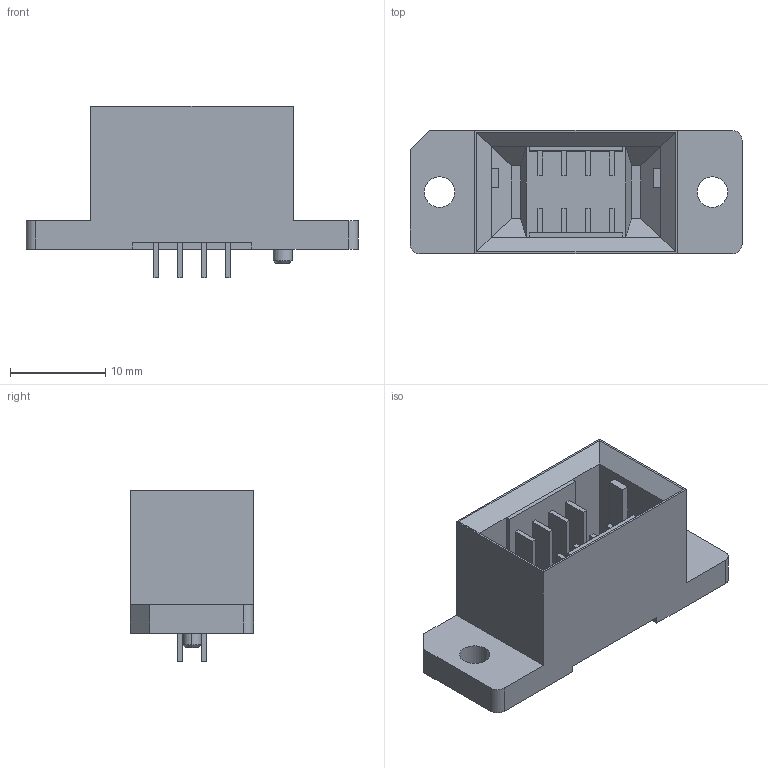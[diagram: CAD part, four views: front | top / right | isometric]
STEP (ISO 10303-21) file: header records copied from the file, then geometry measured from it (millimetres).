
FILE_DESCRIPTION(('CoCreate Modeling STEP Export'),'2;1');
FILE_NAME('P3A946_FA11-008.stp','2017-07-27T15:51:24',(''),(''),'CoCreate Modeling STEP processor for AP214 (Solid Model)','CoCreate Modeling 17.0B 09-Oct-2010 (C) Parametric Technology GmbH','');
FILE_SCHEMA(('AUTOMOTIVE_DESIGN { 1 0 10303 214 1 1 1 1 }'));
Length unit declared in the file: millimetre
Products named in the file (2): FA11-008
Assembly tree (1 placements, depth 2):
  FA11-008
    FA11-008
Bounding box: 34.8 x 12.9 x 18 mm (x, y, z)
Volume: 2591.9 mm3; surface area: 3114.1 mm2
Topology: 1 solids, 1 shells, 140 faces, 367 edges, 239 vertices
Faces by surface type: plane 129, cylinder 9, cone 2
Entity records: 4169 total; most frequent: ORIENTED_EDGE 734, CARTESIAN_POINT 726, DIRECTION 638, EDGE_CURVE 367, VECTOR 336, LINE 336, VERTEX_POINT 239, EDGE_LOOP 154
